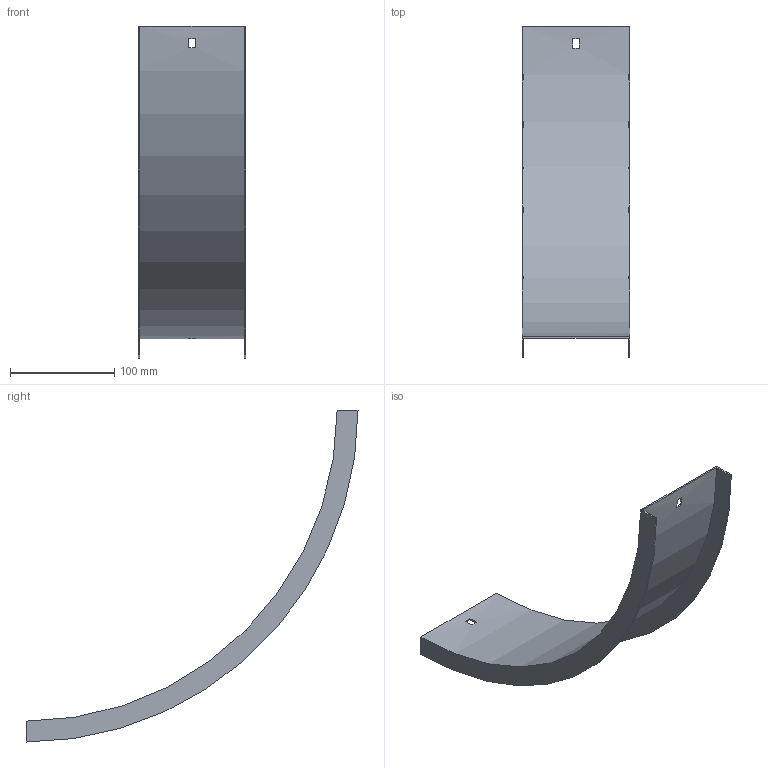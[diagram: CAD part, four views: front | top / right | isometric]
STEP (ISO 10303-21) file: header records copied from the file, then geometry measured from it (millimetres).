
FILE_DESCRIPTION (( 'STEP AP214' ), '1' );
FILE_NAME ('B2X30N3R100X.step', '2025-03-20T09:46:50', ( '' ), ( '' ), 'SwSTEP 2.0', 'SolidWorks 2023', '' );
FILE_SCHEMA (( 'AUTOMOTIVE_DESIGN' ));
Length unit declared in the file: millimetre
Products named in the file (1): B2X30N3R100X
Bounding box: 103 x 318.5 x 318.5 mm (x, y, z)
Volume: 99408.8 mm3; surface area: 134555.6 mm2
Topology: 1 solids, 1 shells, 18 faces, 48 edges, 32 vertices
Faces by surface type: plane 14, cylinder 4
Entity records: 599 total; most frequent: DIRECTION 102, CARTESIAN_POINT 99, ORIENTED_EDGE 96, EDGE_CURVE 48, AXIS2_PLACEMENT_3D 35, VECTOR 32, VERTEX_POINT 32, LINE 32
